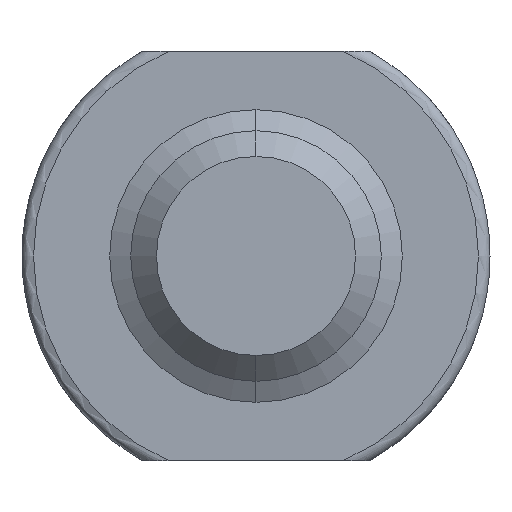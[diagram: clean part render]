
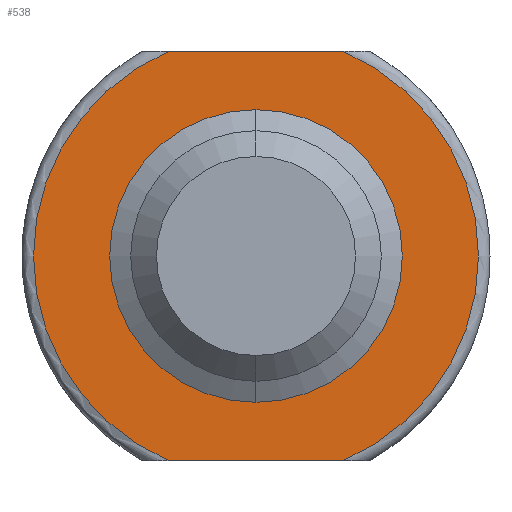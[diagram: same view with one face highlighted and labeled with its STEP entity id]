
A CAD part, front view. The second image highlights one B-rep face of the part: STEP entity #538.
In plain terms, the highlighted planar face has unit normal (0, -1, 0).
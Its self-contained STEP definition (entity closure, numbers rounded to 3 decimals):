
#1 = CARTESIAN_POINT ( 'NONE',  ( 0., 0., 0. ) ) ;
#13 = EDGE_CURVE ( 'NONE', #241, #374, #1026, .T. ) ;
#14 = FACE_OUTER_BOUND ( 'NONE', #460, .T. ) ;
#37 = DIRECTION ( 'NONE',  ( 0., 0., 1. ) ) ;
#45 = DIRECTION ( 'NONE',  ( 0., 1., 0. ) ) ;
#54 = DIRECTION ( 'NONE',  ( 0., -1., 0. ) ) ;
#63 = DIRECTION ( 'NONE',  ( 1., 0., 0. ) ) ;
#80 = DIRECTION ( 'NONE',  ( 0., -1., 0. ) ) ;
#149 = VECTOR ( 'NONE', #1249, 1000. ) ;
#151 = EDGE_CURVE ( 'NONE', #301, #589, #975, .T. ) ;
#201 = AXIS2_PLACEMENT_3D ( 'NONE', #448, #54, #357 ) ;
#224 = DIRECTION ( 'NONE',  ( 0., 0., 1. ) ) ;
#241 = VERTEX_POINT ( 'NONE', #764 ) ;
#274 = VERTEX_POINT ( 'NONE', #367 ) ;
#279 = AXIS2_PLACEMENT_3D ( 'NONE', #1, #1118, #808 ) ;
#301 = VERTEX_POINT ( 'NONE', #1280 ) ;
#313 = PLANE ( 'NONE',  #350 ) ;
#324 = CARTESIAN_POINT ( 'NONE',  ( -2.048, 0., 3.5 ) ) ;
#350 = AXIS2_PLACEMENT_3D ( 'NONE', #515, #80, #504 ) ;
#357 = DIRECTION ( 'NONE',  ( 0., 0., -1. ) ) ;
#364 = FACE_BOUND ( 'NONE', #1207, .T. ) ;
#367 = CARTESIAN_POINT ( 'NONE',  ( 0., 0., -1.934 ) ) ;
#374 = VERTEX_POINT ( 'NONE', #406 ) ;
#406 = CARTESIAN_POINT ( 'NONE',  ( 1.48, 0., -3.5 ) ) ;
#414 = ORIENTED_EDGE ( 'NONE', *, *, #151, .F. ) ;
#434 = DIRECTION ( 'NONE',  ( 0., 1., 0. ) ) ;
#437 = CIRCLE ( 'NONE', #279, 1.934 ) ;
#448 = CARTESIAN_POINT ( 'NONE',  ( 0., 0., 0. ) ) ;
#460 = EDGE_LOOP ( 'NONE', ( #543, #938, #414, #554 ) ) ;
#461 = CARTESIAN_POINT ( 'NONE',  ( 2.048, 0., -3.5 ) ) ;
#465 = EDGE_CURVE ( 'NONE', #274, #1141, #437, .T. ) ;
#504 = DIRECTION ( 'NONE',  ( 0., 0., -1. ) ) ;
#515 = CARTESIAN_POINT ( 'NONE',  ( 0., 0., 0. ) ) ;
#538 = ADVANCED_FACE ( 'NONE', ( #364, #14 ), #313, .T. ) ;
#543 = ORIENTED_EDGE ( 'NONE', *, *, #13, .F. ) ;
#554 = ORIENTED_EDGE ( 'NONE', *, *, #894, .T. ) ;
#562 = LINE ( 'NONE', #324, #149 ) ;
#589 = VERTEX_POINT ( 'NONE', #719 ) ;
#610 = VECTOR ( 'NONE', #63, 1000. ) ;
#633 = CARTESIAN_POINT ( 'NONE',  ( 0., 0., 0. ) ) ;
#684 = EDGE_CURVE ( 'NONE', #241, #589, #562, .T. ) ;
#693 = ORIENTED_EDGE ( 'NONE', *, *, #465, .F. ) ;
#719 = CARTESIAN_POINT ( 'NONE',  ( -1.48, 0., 3.5 ) ) ;
#764 = CARTESIAN_POINT ( 'NONE',  ( 1.48, 0., 3.5 ) ) ;
#808 = DIRECTION ( 'NONE',  ( 0., 0., -1. ) ) ;
#894 = EDGE_CURVE ( 'NONE', #301, #374, #908, .T. ) ;
#908 = LINE ( 'NONE', #461, #610 ) ;
#913 = CIRCLE ( 'NONE', #201, 1.934 ) ;
#938 = ORIENTED_EDGE ( 'NONE', *, *, #684, .T. ) ;
#975 = CIRCLE ( 'NONE', #1076, 3.8 ) ;
#1026 = CIRCLE ( 'NONE', #1084, 3.8 ) ;
#1076 = AXIS2_PLACEMENT_3D ( 'NONE', #1268, #45, #37 ) ;
#1084 = AXIS2_PLACEMENT_3D ( 'NONE', #633, #434, #224 ) ;
#1118 = DIRECTION ( 'NONE',  ( 0., -1., 0. ) ) ;
#1135 = ORIENTED_EDGE ( 'NONE', *, *, #1241, .F. ) ;
#1141 = VERTEX_POINT ( 'NONE', #1146 ) ;
#1146 = CARTESIAN_POINT ( 'NONE',  ( 0., 0., 1.934 ) ) ;
#1207 = EDGE_LOOP ( 'NONE', ( #1135, #693 ) ) ;
#1241 = EDGE_CURVE ( 'NONE', #1141, #274, #913, .T. ) ;
#1249 = DIRECTION ( 'NONE',  ( -1., 0., 0. ) ) ;
#1268 = CARTESIAN_POINT ( 'NONE',  ( 0., 0., 0. ) ) ;
#1280 = CARTESIAN_POINT ( 'NONE',  ( -1.48, 0., -3.5 ) ) ;
